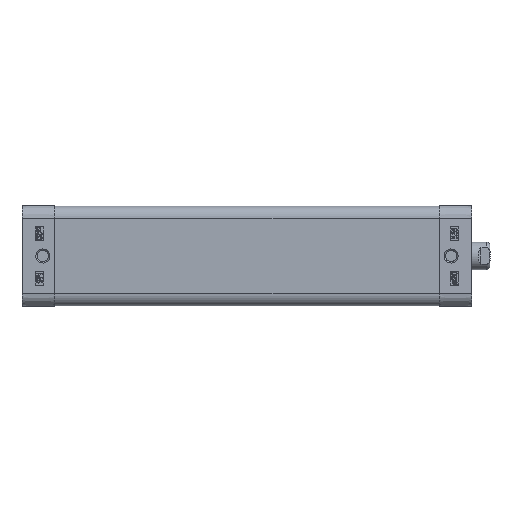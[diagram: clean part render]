
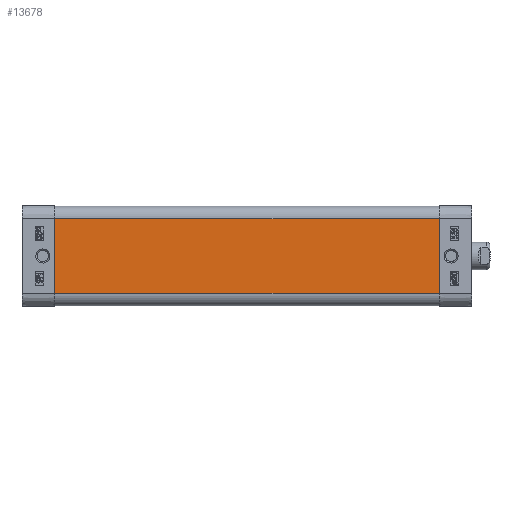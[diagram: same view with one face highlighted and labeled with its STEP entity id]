
A CAD part, left-side view. The second image highlights one B-rep face of the part: STEP entity #13678.
In plain terms, the highlighted planar face has unit normal (-1, 0, 0).
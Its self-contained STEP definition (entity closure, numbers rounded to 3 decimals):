
#468=PLANE('',#14541);
#3748=ORIENTED_EDGE('',*,*,#5080,.T.);
#3749=ORIENTED_EDGE('',*,*,#5246,.T.);
#3750=ORIENTED_EDGE('',*,*,#5247,.T.);
#3751=ORIENTED_EDGE('',*,*,#5136,.F.);
#5080=EDGE_CURVE('',#6118,#6119,#6974,.T.);
#5136=EDGE_CURVE('',#6118,#6174,#7002,.T.);
#5246=EDGE_CURVE('',#6119,#6229,#7084,.T.);
#5247=EDGE_CURVE('',#6229,#6174,#7085,.T.);
#6118=VERTEX_POINT('',#20892);
#6119=VERTEX_POINT('',#20893);
#6174=VERTEX_POINT('',#21005);
#6229=VERTEX_POINT('',#21223);
#6974=LINE('',#20891,#7814);
#7002=LINE('',#21004,#7842);
#7084=LINE('',#21224,#7924);
#7085=LINE('',#21226,#7925);
#7814=VECTOR('',#16725,1000.);
#7842=VECTOR('',#16811,1000.);
#7924=VECTOR('',#17057,1000.);
#7925=VECTOR('',#17060,1000.);
#8625=EDGE_LOOP('',(#3748,#3749,#3750,#3751));
#9357=FACE_BOUND('',#8625,.T.);
#13678=ADVANCED_FACE('',(#9357),#468,.T.);
#14541=AXIS2_PLACEMENT_3D('',#21225,#17058,#17059);
#16725=DIRECTION('',(0.,0.,-1.));
#16811=DIRECTION('',(0.,-1.,0.));
#17057=DIRECTION('',(0.,-1.,0.));
#17058=DIRECTION('',(-1.,0.,0.));
#17059=DIRECTION('',(0.,0.,1.));
#17060=DIRECTION('',(0.,0.,1.));
#20891=CARTESIAN_POINT('',(-18.,9.25,13.5));
#20892=CARTESIAN_POINT('',(-18.,9.25,13.5));
#20893=CARTESIAN_POINT('',(-18.,9.25,-13.5));
#21004=CARTESIAN_POINT('',(-18.,9.25,13.5));
#21005=CARTESIAN_POINT('',(-18.,-129.15,13.5));
#21223=CARTESIAN_POINT('',(-18.,-129.15,-13.5));
#21224=CARTESIAN_POINT('',(-18.,9.25,-13.5));
#21225=CARTESIAN_POINT('',(-18.,0.,13.5));
#21226=CARTESIAN_POINT('',(-18.,-129.15,-13.5));
